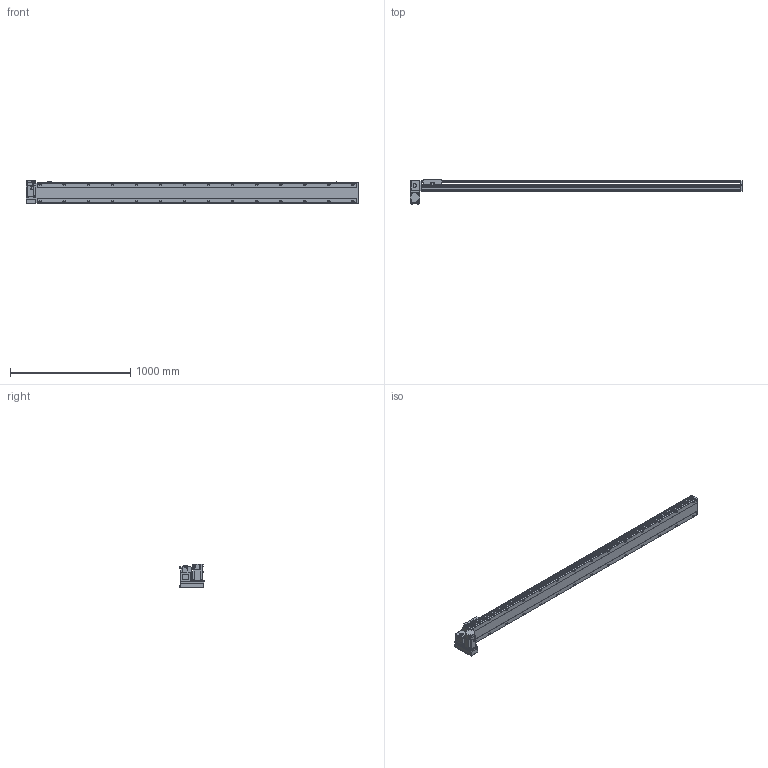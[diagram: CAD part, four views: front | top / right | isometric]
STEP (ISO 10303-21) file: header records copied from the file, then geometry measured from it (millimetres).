
FILE_DESCRIPTION( ( 'STEP AP214' ), '1' );
FILE_NAME( 'x:/temp/worker_4/temp/exporttempdir_2248_360_ggRzC/format_0/PBS170-P40-S2400-LD-T75-C1-N(0).stp', '2022-06-07T07:56:06', ( 'License CC BY-ND 4.0' ), ( 'CADENAS' ), ' ', 'PARTsolutions', ' ' );
FILE_SCHEMA( ( 'AUTOMOTIVE_DESIGN { 1 0 10303 214 1 1 1 1 }' ) );
Length unit declared in the file: millimetre
Products named in the file (7): PBS170-P40-S2400-LD-T75-C1-N(0); _PBS170-S2400()_body; _PBS170T-LD_motors; _T75-p1; _PBS170_sliser; _PBS170_plant; _PBS170_sensor
Assembly tree (8 placements, depth 2):
  PBS170-P40-S2400-LD-T75-C1-N(0)
    _PBS170-S2400()_body
    _PBS170T-LD_motors
    _T75-p1
    _PBS170_sliser
    _PBS170_plant
    _PBS170_sensor  x3
Bounding box: 2763 x 201 x 197.3 mm (x, y, z)
Volume: 20968085.4 mm3; surface area: 2642827.2 mm2
Topology: 8 solids, 8 shells, 1178 faces, 3115 edges, 2030 vertices
Faces by surface type: plane 723, cylinder 387, cone 58, sphere 8, torus 2
Full cylindrical faces by diameter (mm): 3.242 x4, 4 x2, 4.4 x4, 4.5 x6, 4.917 x4, 6 x9, 6.647 x36, 7 x2, 7.5 x4, 8 x8, 8.5 x28, 10 x4, 10.5 x28, 11 x2, 30 x2, 40 x1, 70 x1
Entity records: 43592 total; most frequent: CARTESIAN_POINT 7229, DIRECTION 5720, ORIENTED_EDGE 5388, EDGE_CURVE 2694, AXIS2_PLACEMENT_3D 2017, VERTEX_POINT 1874, LINE 1686, VECTOR 1686
